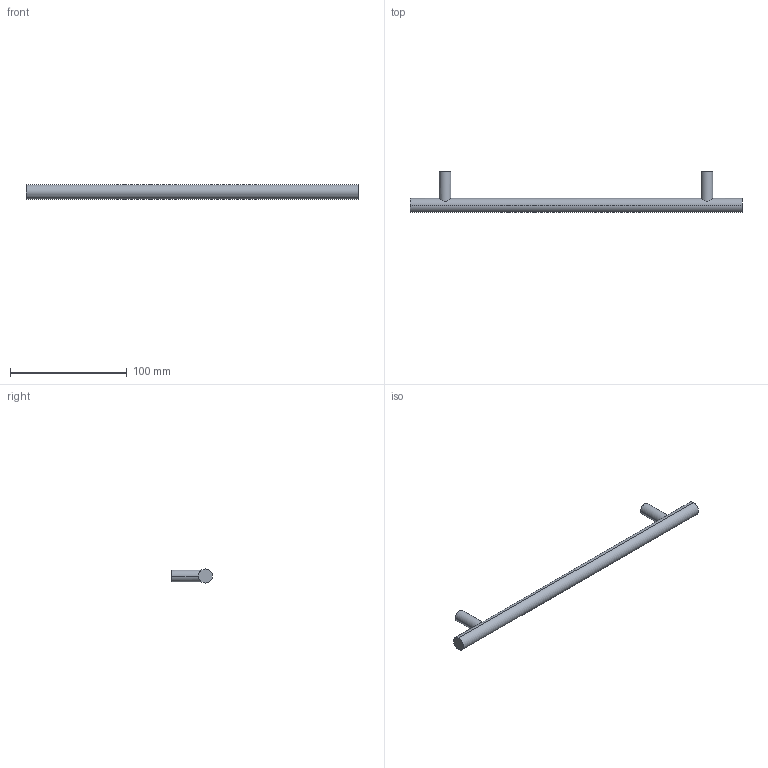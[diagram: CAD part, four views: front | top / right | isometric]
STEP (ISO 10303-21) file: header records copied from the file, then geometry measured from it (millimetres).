
FILE_DESCRIPTION( ( '' ), '1' );
FILE_NAME( 'D:/1.AUTOCAD EXPORT/Group 10/sheet_10_1/9071012.stp', '2013-10-21T10:05:57', ( '' ), ( '' ), ' ', ' ', ' ' );
FILE_SCHEMA( ( 'automotive_design' ) );
Length unit declared in the file: millimetre
Products named in the file (1): 1
Bounding box: 284 x 35 x 12 mm (x, y, z)
Volume: 35522.1 mm3; surface area: 12738.1 mm2
Topology: 1 solids, 1 shells, 16 faces, 32 edges, 22 vertices
Faces by surface type: cylinder 10, plane 6
Entity records: 972 total; most frequent: CARTESIAN_POINT 205, DIRECTION 76, STYLED_ITEM 71, PRESENTATION_STYLE_ASSIGNMENT 71, COLOUR_RGB 71, ORIENTED_EDGE 64, AXIS2_PLACEMENT_3D 33, EDGE_CURVE 32
